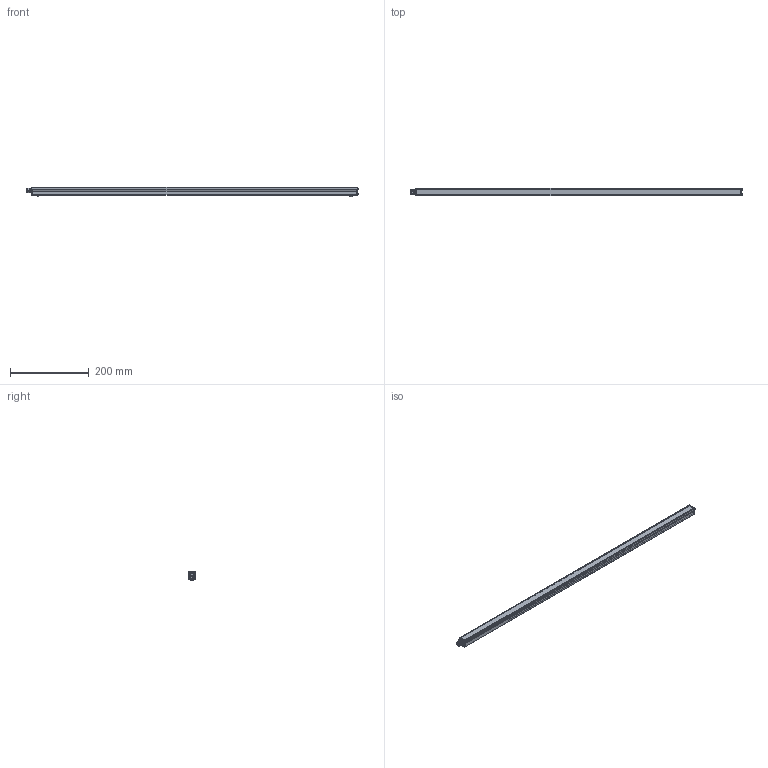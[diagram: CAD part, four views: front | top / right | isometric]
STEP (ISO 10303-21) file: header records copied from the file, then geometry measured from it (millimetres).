
FILE_DESCRIPTION (( 'STEP AP214' ), '1' );
FILE_NAME ('AL126 _NONSEALED__AL12632.stp', '2021-04-29T14:25:21', ( '' ), ( '' ), 'SwSTEP 2.0', 'SolidWorks 2018', '' );
FILE_SCHEMA (( 'AUTOMOTIVE_DESIGN' ));
Length unit declared in the file: inch
Products named in the file (15): 090877-XX_090877-32; 093474_093474; 090875; 090889-XX_090889-32; 10mm Advanced illumination; 093469_093469; AL126 _NONSEALED__AL12632; 10mm Label (116 126)_Default<As Machined>; 090876; 091052 (116 126); HN-M4_90592A016; 10mm Ai; BH-M4x6; 091064_Model_Dome Fittings_Thread Type and Size(Dome)_M10 x 1.5_Hazardous Location-Explosive Proof(ATEX and EExe Versions)_No_; 10mm Swish_Default<As Machined>
Assembly tree (24 placements, depth 3):
  AL126 _NONSEALED__AL12632
    090889-XX_090889-32
    090877-XX_090877-32
    090875
    090876
    093474_093474  x8
    093469_093469  x2
    091064_Model_Dome Fittings_Thread Type and Size(Dome)_M10 x 1.5_Hazardous Location-Explosive Proof(ATEX and EExe Versions)_No_
    HN-M4_90592A016  x2
    BH-M4x6  x2
    091052 (116 126)
      10mm Label (116 126)_Default<As Machined>
      10mm Ai
      10mm Swish_Default<As Machined>
      10mm Advanced illumination
Bounding box: 841.93 x 20.02 x 24.1 mm (x, y, z)
Volume: 112974.6 mm3; surface area: 161089.1 mm2
Topology: 48 solids, 48 shells, 1877 faces, 4840 edges, 3010 vertices
Faces by surface type: cylinder 934, plane 401, cone 362, bspline 120, torus 60
Entity records: 30293 total; most frequent: CARTESIAN_POINT 10456, ORIENTED_EDGE 4076, DIRECTION 3580, EDGE_CURVE 2038, VERTEX_POINT 1298, AXIS2_PLACEMENT_3D 1276, VECTOR 1028, LINE 1028
